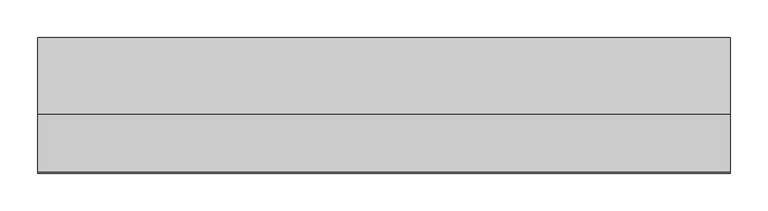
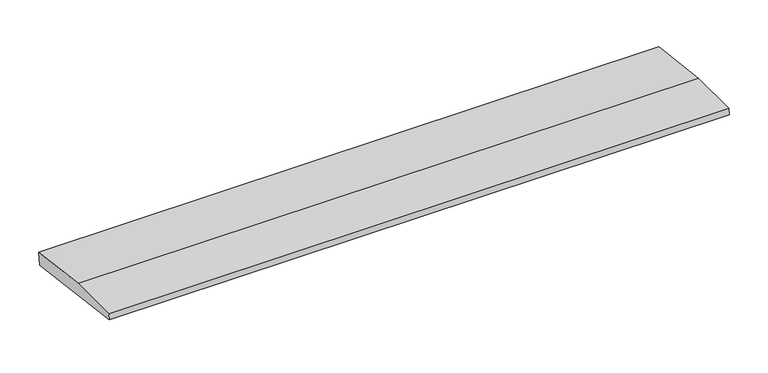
"""IFC4 building model written with IfcOpenShell, lengths in millimetres: beam geometry, weatherboad : weatherboad."""

from ifc_helpers import new_model, si_unit, frame, origin, place, context, project, spatial, polyline, outline, extrude, source, transform, mapped, element, save


def beam_0986cd51(model_context):
    return source(origin(), model_context, "Body", "SweptSolid", [
        extrude(outline(polyline([(0.0, -9.143159), (1.1226388, 0.0), (79.0749747, 0.0), (180.9387048, -12.5072934), (178.6231873, -31.3656703), (0.0, -9.143159)])), frame((-460.4114237, 0.0, 0.0), z_axis=(1.0, 0.0, 0.0), x_axis=(0.0, 1.0, 0.0)), (0.0, 0.0, 1.0), 920.8228475),
    ])


if __name__ == "__main__":
    model = new_model("IFC4")
    model_context = context("Model", 3, world=origin())
    ifc_project = project(units=[si_unit("LENGTHUNIT", "METRE", prefix="MILLI")], contexts=[model_context])
    site = spatial("IfcSite", under=ifc_project)
    building = spatial("IfcBuilding", under=site)
    placement = place(None, origin())
    beam_shape = beam_0986cd51(model_context)
    element("IfcBeam", 1, ObjectType="weatherboad : weatherboad", at=placement, inside=building, context=model_context, shape_type="MappedRepresentation", body=[
        mapped(beam_shape, transform((0.0, 0.0, 0.0), x_axis=(1.0, 0.0, 0.0), y_axis=(0.0, 1.0, 0.0), z_axis=(0.0, 0.0, 1.0))),
    ])
    save(model, "model.ifc")
